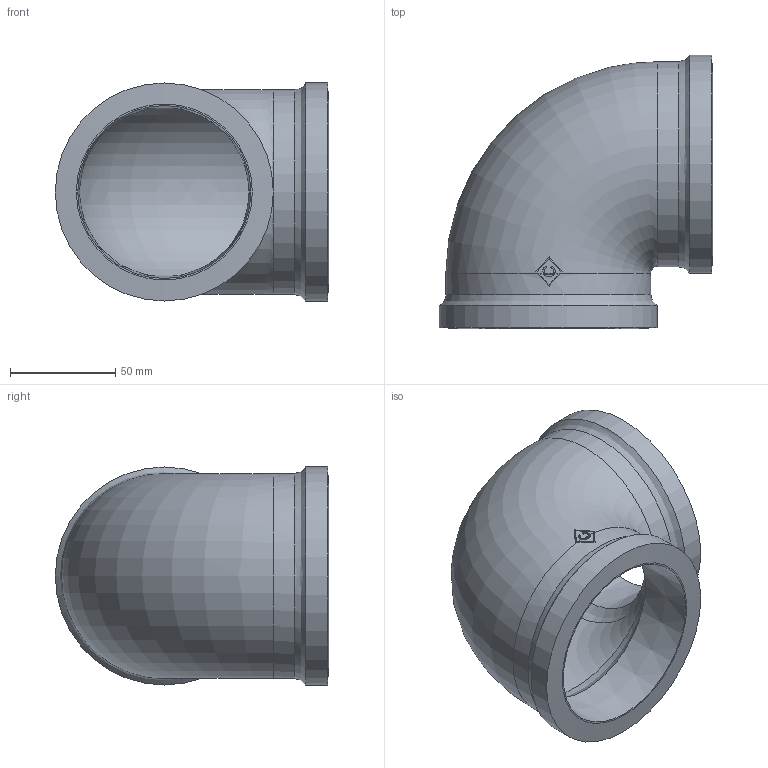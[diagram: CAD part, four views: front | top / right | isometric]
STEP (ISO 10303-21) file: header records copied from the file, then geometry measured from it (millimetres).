
FILE_DESCRIPTION((''),'2;1');
FILE_NAME('P:\Fastrack\53909_CRANE\Crane\Fig.151 Elbow\New 3.00 inch\151-3.00.stp','2009-09-15T15:56:14',('btaylor'),(''),'Autodesk Inventor 2008','Autodesk Inventor 2008','');
FILE_SCHEMA(('AUTOMOTIVE_DESIGN { 1 0 10303 214 1 1 1 1 }'));
Length unit declared in the file: millimetre
Products named in the file (1): 151-3.00
Bounding box: 130.05 x 130.05 x 103.7 mm (x, y, z)
Volume: 259674.6 mm3; surface area: 84721.7 mm2
Topology: 1 solids, 1 shells, 42 faces, 117 edges, 77 vertices
Faces by surface type: bspline 12, plane 12, cylinder 8, torus 6, cone 4
Full cylindrical faces by diameter (mm): 97.5 x2, 103.7 x2
Entity records: 3041 total; most frequent: CARTESIAN_POINT 2092, ORIENTED_EDGE 202, DIRECTION 150, EDGE_CURVE 101, VERTEX_POINT 73, AXIS2_PLACEMENT_3D 66, EDGE_LOOP 56, B_SPLINE_CURVE_WITH_KNOTS 48
